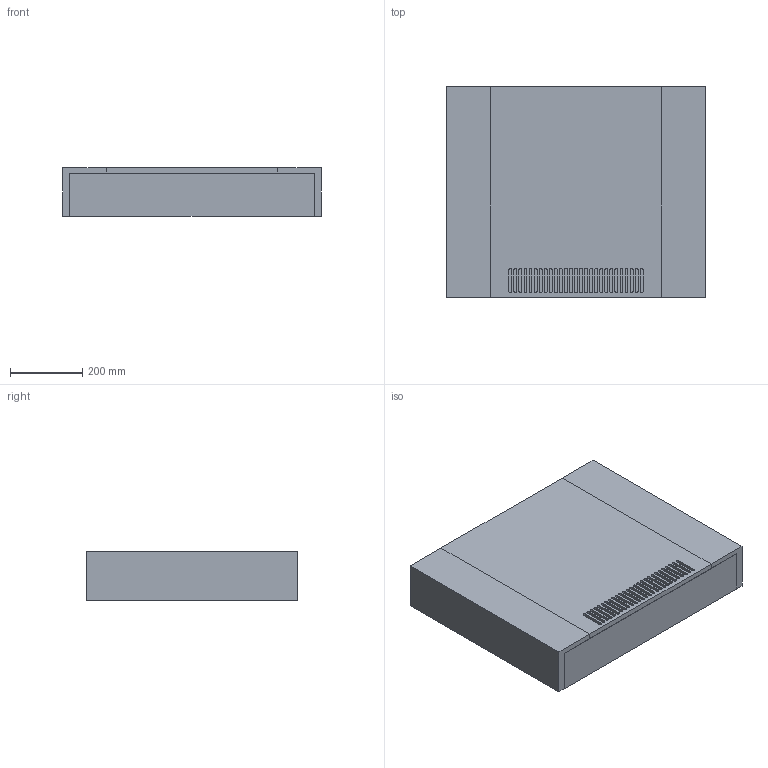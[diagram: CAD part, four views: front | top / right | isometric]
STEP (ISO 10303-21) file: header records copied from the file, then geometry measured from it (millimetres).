
FILE_DESCRIPTION (( 'STEP AP214' ), '1' );
FILE_NAME ('PFWSL_square_model01_4-pipe_v2.STEP', '2024-11-11T13:27:23', ( '' ), ( '' ), 'SwSTEP 2.0', 'SolidWorks 2023', '' );
FILE_SCHEMA (( 'AUTOMOTIVE_DESIGN' ));
Length unit declared in the file: inch
Products named in the file (1): PFWSL_square_model01_4-pipe_v2
Bounding box: 715.96 x 582.61 x 134.94 mm (x, y, z)
Volume: 35898656.7 mm3; surface area: 2365565.4 mm2
Topology: 25 solids, 25 shells, 434 faces, 1090 edges, 724 vertices
Faces by surface type: plane 276, cylinder 150, torus 8
Entity records: 13505 total; most frequent: DIRECTION 2276, CARTESIAN_POINT 2249, ORIENTED_EDGE 2180, EDGE_CURVE 1090, LINE 774, VECTOR 774, AXIS2_PLACEMENT_3D 751, VERTEX_POINT 724
